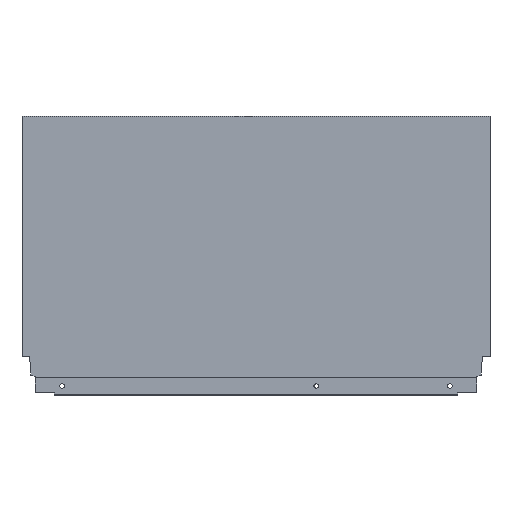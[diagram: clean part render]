
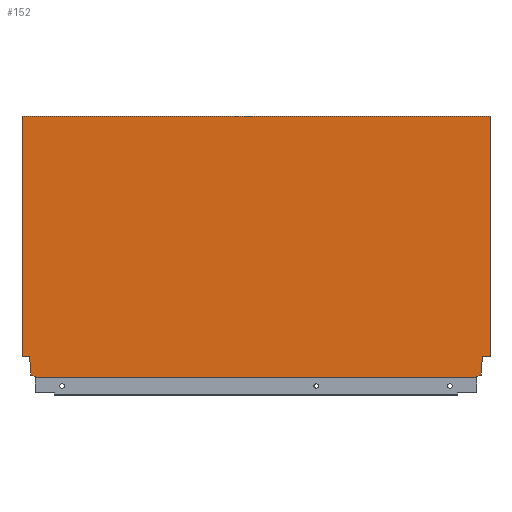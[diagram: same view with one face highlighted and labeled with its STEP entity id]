
A CAD part, top view. The second image highlights one B-rep face of the part: STEP entity #152.
In plain terms, the highlighted planar face has unit normal (0, 0, 1).
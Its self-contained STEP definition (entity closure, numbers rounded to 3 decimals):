
#32 = EDGE_CURVE ( 'NONE', #1312, #1297, #428, .T. ) ;
#43 = EDGE_CURVE ( 'NONE', #1317, #1289, #477, .T. ) ;
#56 = EDGE_CURVE ( 'NONE', #1292, #1306, #507, .T. ) ;
#87 = EDGE_CURVE ( 'NONE', #1303, #1287, #586, .T. ) ;
#111 = EDGE_CURVE ( 'NONE', #1332, #1292, #637, .T. ) ;
#117 = EDGE_CURVE ( 'NONE', #1287, #1327, #691, .T. ) ;
#120 = EDGE_CURVE ( 'NONE', #1326, #1332, #715, .T. ) ;
#121 = EDGE_CURVE ( 'NONE', #1296, #1314, #699, .T. ) ;
#125 = EDGE_CURVE ( 'NONE', #1326, #1327, #676, .T. ) ;
#127 = EDGE_CURVE ( 'NONE', #1315, #1289, #652, .T. ) ;
#129 = EDGE_CURVE ( 'NONE', #1314, #1312, #743, .T. ) ;
#130 = EDGE_CURVE ( 'NONE', #1306, #1317, #730, .T. ) ;
#132 = EDGE_CURVE ( 'NONE', #1297, #1303, #728, .T. ) ;
#134 = EDGE_CURVE ( 'NONE', #1315, #1296, #731, .T. ) ;
#152 = ADVANCED_FACE ( 'NONE', ( #542 ), #970, .T. ) ;
#161 = AXIS2_PLACEMENT_3D ( 'NONE', #805, #810, #811 ) ;
#375 = EDGE_LOOP ( 'NONE', ( #1423, #1424, #1413, #1431, #1432, #1514, #1516, #1546, #1500, #1497, #1492, #1450, #1464, #1465 ) ) ;
#428 = LINE ( 'NONE', #1162, #446 ) ;
#439 = VECTOR ( 'NONE', #969, 1000. ) ;
#446 = VECTOR ( 'NONE', #1148, 1000. ) ;
#477 = LINE ( 'NONE', #1116, #486 ) ;
#486 = VECTOR ( 'NONE', #1115, 1000. ) ;
#507 = LINE ( 'NONE', #1080, #528 ) ;
#528 = VECTOR ( 'NONE', #1079, 1000. ) ;
#542 = FACE_OUTER_BOUND ( 'NONE', #375, .T. ) ;
#586 = LINE ( 'NONE', #1138, #590 ) ;
#590 = VECTOR ( 'NONE', #1399, 1000. ) ;
#637 = LINE ( 'NONE', #1220, #690 ) ;
#652 = LINE ( 'NONE', #997, #741 ) ;
#676 = LINE ( 'NONE', #1005, #747 ) ;
#690 = VECTOR ( 'NONE', #1129, 1000. ) ;
#691 = LINE ( 'NONE', #996, #692 ) ;
#692 = VECTOR ( 'NONE', #1064, 1000. ) ;
#695 = VECTOR ( 'NONE', #999, 1000. ) ;
#699 = LINE ( 'NONE', #1003, #722 ) ;
#715 = LINE ( 'NONE', #1007, #695 ) ;
#722 = VECTOR ( 'NONE', #1002, 1000. ) ;
#725 = VECTOR ( 'NONE', #886, 1000. ) ;
#728 = LINE ( 'NONE', #883, #725 ) ;
#729 = VECTOR ( 'NONE', #870, 1000. ) ;
#730 = LINE ( 'NONE', #867, #729 ) ;
#731 = LINE ( 'NONE', #968, #439 ) ;
#741 = VECTOR ( 'NONE', #993, 1000. ) ;
#743 = LINE ( 'NONE', #861, #748 ) ;
#747 = VECTOR ( 'NONE', #991, 1000. ) ;
#748 = VECTOR ( 'NONE', #863, 1000. ) ;
#805 = CARTESIAN_POINT ( 'NONE',  ( -467., 0., 8. ) ) ;
#810 = DIRECTION ( 'NONE',  ( 0., 0., 1. ) ) ;
#811 = DIRECTION ( 'NONE',  ( 1., 0., 0. ) ) ;
#850 = CARTESIAN_POINT ( 'NONE',  ( -453.996, 1.146, 8. ) ) ;
#861 = CARTESIAN_POINT ( 'NONE',  ( 0., 21.2, 8. ) ) ;
#863 = DIRECTION ( 'NONE',  ( -1., 0., 0. ) ) ;
#867 = CARTESIAN_POINT ( 'NONE',  ( -459.94, 21.2, 8. ) ) ;
#869 = CARTESIAN_POINT ( 'NONE',  ( -458.1, 10.765, 8. ) ) ;
#870 = DIRECTION ( 'NONE',  ( -0.174, 0.985, 0. ) ) ;
#871 = CARTESIAN_POINT ( 'NONE',  ( -7.06, 21.2, 8. ) ) ;
#877 = CARTESIAN_POINT ( 'NONE',  ( -459.94, 21.2, 8. ) ) ;
#880 = CARTESIAN_POINT ( 'NONE',  ( -467., 260.7, 8. ) ) ;
#881 = CARTESIAN_POINT ( 'NONE',  ( 0., 21.2, 8. ) ) ;
#883 = CARTESIAN_POINT ( 'NONE',  ( -8.9, 10.765, 8. ) ) ;
#886 = DIRECTION ( 'NONE',  ( 0., -1., 0. ) ) ;
#889 = CARTESIAN_POINT ( 'NONE',  ( -467., 21.2, 8. ) ) ;
#894 = CARTESIAN_POINT ( 'NONE',  ( -13.004, 1.146, 8. ) ) ;
#899 = CARTESIAN_POINT ( 'NONE',  ( -8.9, 2.64, 8. ) ) ;
#902 = CARTESIAN_POINT ( 'NONE',  ( -458.1, 2.64, 8. ) ) ;
#903 = CARTESIAN_POINT ( 'NONE',  ( -8.9, 10.765, 8. ) ) ;
#904 = CARTESIAN_POINT ( 'NONE',  ( 0., 260.7, 8. ) ) ;
#968 = CARTESIAN_POINT ( 'NONE',  ( -467., 260.7, 8. ) ) ;
#969 = DIRECTION ( 'NONE',  ( 1., 0., 0. ) ) ;
#970 = PLANE ( 'NONE',  #161 ) ;
#987 = CARTESIAN_POINT ( 'NONE',  ( -13.004, 0., 8. ) ) ;
#991 = DIRECTION ( 'NONE',  ( 1., 0., 0. ) ) ;
#993 = DIRECTION ( 'NONE',  ( 0., -1., 0. ) ) ;
#996 = CARTESIAN_POINT ( 'NONE',  ( -13.004, 1.146, 8. ) ) ;
#997 = CARTESIAN_POINT ( 'NONE',  ( -467., 0., 8. ) ) ;
#999 = DIRECTION ( 'NONE',  ( 0., 1., 0. ) ) ;
#1001 = CARTESIAN_POINT ( 'NONE',  ( -453.996, 0., 8. ) ) ;
#1002 = DIRECTION ( 'NONE',  ( 0., -1., 0. ) ) ;
#1003 = CARTESIAN_POINT ( 'NONE',  ( 0., 0., 8. ) ) ;
#1005 = CARTESIAN_POINT ( 'NONE',  ( -467., 0., 8. ) ) ;
#1007 = CARTESIAN_POINT ( 'NONE',  ( -453.996, 1.146, 8. ) ) ;
#1064 = DIRECTION ( 'NONE',  ( 0., -1., 0. ) ) ;
#1079 = DIRECTION ( 'NONE',  ( 0., 1., 0. ) ) ;
#1080 = CARTESIAN_POINT ( 'NONE',  ( -458.1, 10.765, 8. ) ) ;
#1115 = DIRECTION ( 'NONE',  ( -1., 0., 0. ) ) ;
#1116 = CARTESIAN_POINT ( 'NONE',  ( -472., 21.2, 8. ) ) ;
#1129 = DIRECTION ( 'NONE',  ( -0.94, 0.342, 0. ) ) ;
#1138 = CARTESIAN_POINT ( 'NONE',  ( -8.9, 2.64, 8. ) ) ;
#1148 = DIRECTION ( 'NONE',  ( -0.174, -0.985, 0. ) ) ;
#1162 = CARTESIAN_POINT ( 'NONE',  ( -7.06, 21.2, 8. ) ) ;
#1220 = CARTESIAN_POINT ( 'NONE',  ( -458.1, 2.64, 8. ) ) ;
#1287 = VERTEX_POINT ( 'NONE', #894 ) ;
#1289 = VERTEX_POINT ( 'NONE', #889 ) ;
#1292 = VERTEX_POINT ( 'NONE', #902 ) ;
#1296 = VERTEX_POINT ( 'NONE', #904 ) ;
#1297 = VERTEX_POINT ( 'NONE', #903 ) ;
#1303 = VERTEX_POINT ( 'NONE', #899 ) ;
#1306 = VERTEX_POINT ( 'NONE', #869 ) ;
#1312 = VERTEX_POINT ( 'NONE', #871 ) ;
#1314 = VERTEX_POINT ( 'NONE', #881 ) ;
#1315 = VERTEX_POINT ( 'NONE', #880 ) ;
#1317 = VERTEX_POINT ( 'NONE', #877 ) ;
#1326 = VERTEX_POINT ( 'NONE', #1001 ) ;
#1327 = VERTEX_POINT ( 'NONE', #987 ) ;
#1332 = VERTEX_POINT ( 'NONE', #850 ) ;
#1399 = DIRECTION ( 'NONE',  ( -0.94, -0.342, 0. ) ) ;
#1413 = ORIENTED_EDGE ( 'NONE', *, *, #130, .F. ) ;
#1423 = ORIENTED_EDGE ( 'NONE', *, *, #127, .T. ) ;
#1424 = ORIENTED_EDGE ( 'NONE', *, *, #43, .F. ) ;
#1431 = ORIENTED_EDGE ( 'NONE', *, *, #56, .F. ) ;
#1432 = ORIENTED_EDGE ( 'NONE', *, *, #111, .F. ) ;
#1450 = ORIENTED_EDGE ( 'NONE', *, *, #129, .F. ) ;
#1464 = ORIENTED_EDGE ( 'NONE', *, *, #121, .F. ) ;
#1465 = ORIENTED_EDGE ( 'NONE', *, *, #134, .F. ) ;
#1492 = ORIENTED_EDGE ( 'NONE', *, *, #32, .F. ) ;
#1497 = ORIENTED_EDGE ( 'NONE', *, *, #132, .F. ) ;
#1500 = ORIENTED_EDGE ( 'NONE', *, *, #87, .F. ) ;
#1514 = ORIENTED_EDGE ( 'NONE', *, *, #120, .F. ) ;
#1516 = ORIENTED_EDGE ( 'NONE', *, *, #125, .T. ) ;
#1546 = ORIENTED_EDGE ( 'NONE', *, *, #117, .F. ) ;
